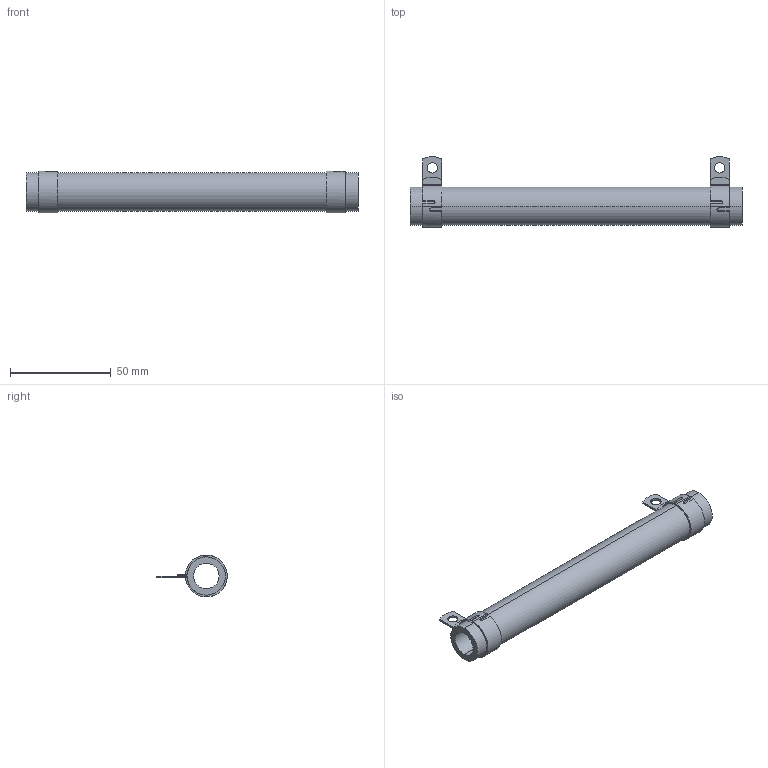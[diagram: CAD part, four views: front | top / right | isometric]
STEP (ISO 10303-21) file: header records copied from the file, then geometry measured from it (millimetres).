
FILE_DESCRIPTION (( 'STEP AP203' ), '1' );
FILE_NAME ('RBEF0180xxxxxKFB00.STEP', '2014-04-04T18:45:33', ( '' ), ( '' ), 'SwSTEP 2.0', 'SolidWorks 2012', '' );
FILE_SCHEMA (( 'CONFIG_CONTROL_DESIGN' ));
Length unit declared in the file: millimetre
Products named in the file (3): DAL013-04_DAL013-119; DAL15-160-XXX_DAL15-160-912-CLOSED; RBEF0180xxxxxKFB00
Assembly tree (3 placements, depth 2):
  RBEF0180xxxxxKFB00
    DAL013-04_DAL013-119
    DAL15-160-XXX_DAL15-160-912-CLOSED  x2
Bounding box: 165.1 x 35.06 x 20.83 mm (x, y, z)
Volume: 27421.3 mm3; surface area: 20043.5 mm2
Topology: 3 solids, 3 shells, 80 faces, 190 edges, 116 vertices
Faces by surface type: plane 42, cylinder 34, bspline 4
Entity records: 1706 total; most frequent: CARTESIAN_POINT 366, DIRECTION 229, ORIENTED_EDGE 202, EDGE_CURVE 101, AXIS2_PLACEMENT_3D 89, VERTEX_POINT 62, LINE 51, VECTOR 51
